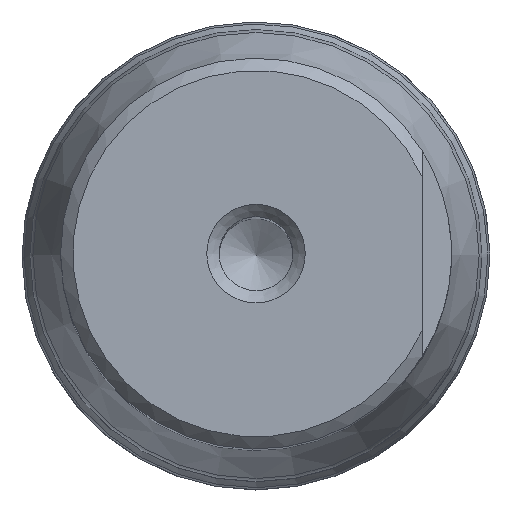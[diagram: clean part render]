
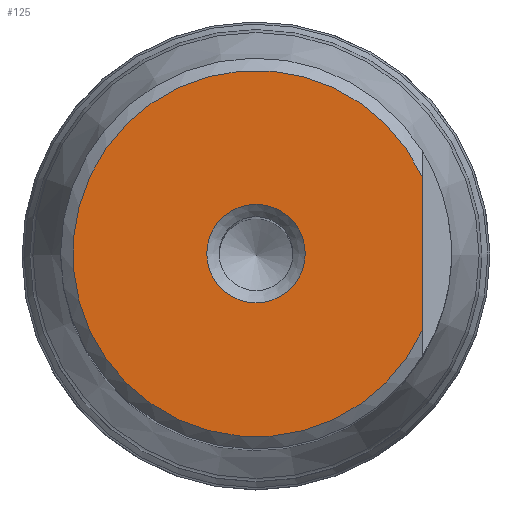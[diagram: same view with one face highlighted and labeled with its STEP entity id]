
A CAD part, top view. The second image highlights one B-rep face of the part: STEP entity #125.
In plain terms, the highlighted planar face has unit normal (0, 0, 1).
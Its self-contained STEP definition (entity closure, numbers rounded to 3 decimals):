
#86=PLANE('',#468);
#100=LINE('',#662,#109);
#109=VECTOR('',#543,1.);
#125=ADVANCED_FACE('',(#166,#167),#86,.T.);
#166=FACE_BOUND('',#215,.T.);
#167=FACE_BOUND('',#216,.T.);
#215=EDGE_LOOP('',(#276));
#216=EDGE_LOOP('',(#277,#278));
#276=ORIENTED_EDGE('',*,*,#386,.T.);
#277=ORIENTED_EDGE('',*,*,#387,.F.);
#278=ORIENTED_EDGE('',*,*,#388,.T.);
#352=VERTEX_POINT('',#661);
#353=VERTEX_POINT('',#663);
#354=VERTEX_POINT('',#664);
#386=EDGE_CURVE('',#352,#352,#417,.T.);
#387=EDGE_CURVE('',#353,#354,#100,.T.);
#388=EDGE_CURVE('',#353,#354,#418,.T.);
#417=CIRCLE('',#466,4.);
#418=CIRCLE('',#467,14.875);
#466=AXIS2_PLACEMENT_3D('',#660,#541,#542);
#467=AXIS2_PLACEMENT_3D('',#665,#544,#545);
#468=AXIS2_PLACEMENT_3D('',#666,#546,#547);
#541=DIRECTION('',(0.,0.,-1.));
#542=DIRECTION('',(1.,0.,0.));
#543=DIRECTION('',(0.,-1.,0.));
#544=DIRECTION('',(0.,0.,1.));
#545=DIRECTION('',(1.,0.,0.));
#546=DIRECTION('',(0.,0.,1.));
#547=DIRECTION('',(1.,0.,0.));
#660=CARTESIAN_POINT('',(0.,0.,113.556));
#661=CARTESIAN_POINT('',(4.,0.,113.556));
#662=CARTESIAN_POINT('',(13.487,20.,113.556));
#663=CARTESIAN_POINT('',(13.487,6.274,113.556));
#664=CARTESIAN_POINT('',(13.487,-6.274,113.556));
#665=CARTESIAN_POINT('',(0.,0.,113.556));
#666=CARTESIAN_POINT('',(0.,0.,113.556));
